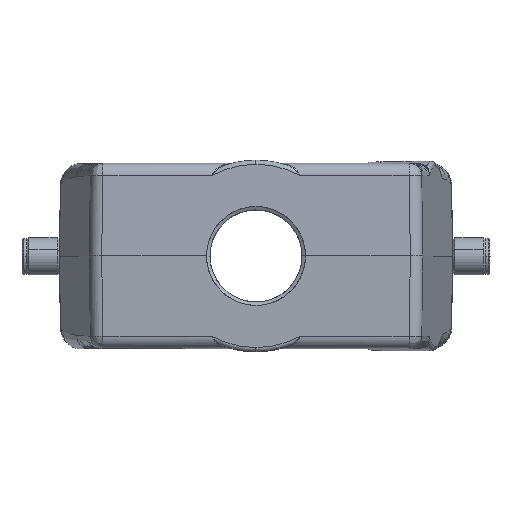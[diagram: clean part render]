
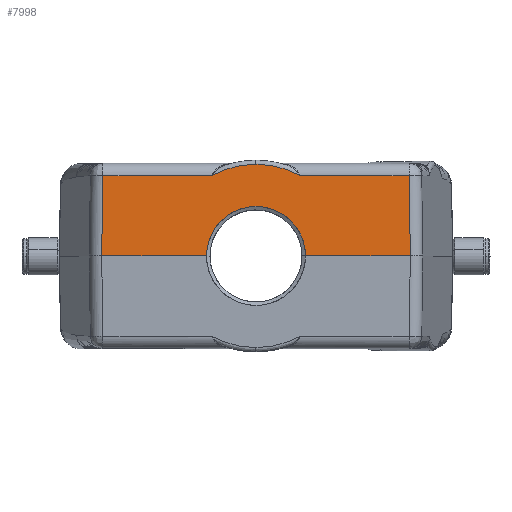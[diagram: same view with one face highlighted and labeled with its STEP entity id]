
A CAD part, top view. The second image highlights one B-rep face of the part: STEP entity #7998.
In plain terms, the highlighted planar face has unit normal (0, 0.018, 1) as drawn and (0, 1, -0.017) by its records, which use the part's own axes.
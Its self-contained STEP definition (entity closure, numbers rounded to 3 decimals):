
#250 = EDGE_CURVE ( 'NONE', #14827, #11829, #12576, .T. ) ;
#575 = DIRECTION ( 'NONE',  ( 0.015, -0.017, -1. ) ) ;
#653 =( BOUNDED_CURVE ( )  B_SPLINE_CURVE ( 3, ( #9312, #30827, #2178, #18879 ),
 .UNSPECIFIED., .F., .T. ) 
 B_SPLINE_CURVE_WITH_KNOTS ( ( 4, 4 ),
 ( 3.142, 4.712 ),
 .UNSPECIFIED. ) 
 CURVE ( )  GEOMETRIC_REPRESENTATION_ITEM ( )  RATIONAL_B_SPLINE_CURVE ( ( 1., 0.805, 0.805, 1. ) ) 
 REPRESENTATION_ITEM ( '' )  );
#1566 = CARTESIAN_POINT ( 'NONE',  ( -36.372, 75.667, -19.052 ) ) ;
#1575 = VERTEX_POINT ( 'NONE', #25935 ) ;
#2178 = CARTESIAN_POINT ( 'NONE',  ( 11.75, 75.88, -6.883 ) ) ;
#2221 = EDGE_CURVE ( 'NONE', #11515, #1575, #13035, .T. ) ;
#2468 = ORIENTED_EDGE ( 'NONE', *, *, #2221, .T. ) ;
#3103 = CARTESIAN_POINT ( 'NONE',  ( -36.366, 75.66, -19.458 ) ) ;
#3392 = DIRECTION ( 'NONE',  ( 0., 1., -0.017 ) ) ;
#3594 = ORIENTED_EDGE ( 'NONE', *, *, #29047, .T. ) ;
#3804 = EDGE_CURVE ( 'NONE', #12710, #13714, #27092, .T. ) ;
#4073 = CARTESIAN_POINT ( 'NONE',  ( 37.855, 77.384, 79.306 ) ) ;
#4346 = LINE ( 'NONE', #11986, #29758 ) ;
#4505 = EDGE_CURVE ( 'NONE', #11829, #23345, #17251, .T. ) ;
#4891 = EDGE_CURVE ( 'NONE', #13714, #22791, #19479, .T. ) ;
#5012 = B_SPLINE_CURVE_WITH_KNOTS ( 'NONE', 3,
 ( #10451, #5622, #5724, #27149, #29534, #8153 ),
 .UNSPECIFIED., .F., .F.,
 ( 4, 2, 4 ),
 ( 0., 0.5, 1. ),
 .UNSPECIFIED. ) ;
#5197 = DIRECTION ( 'NONE',  ( -1., 0., 0. ) ) ;
#5579 = CARTESIAN_POINT ( 'NONE',  ( -10.523, 75.667, -19.052 ) ) ;
#5622 = CARTESIAN_POINT ( 'NONE',  ( 8.911, 75.652, -19.943 ) ) ;
#5724 = CARTESIAN_POINT ( 'NONE',  ( 7.212, 75.64, -20.619 ) ) ;
#5766 = AXIS2_PLACEMENT_3D ( 'NONE', #13026, #3392, #22813 ) ;
#6210 = ORIENTED_EDGE ( 'NONE', *, *, #14324, .F. ) ;
#6519 = CARTESIAN_POINT ( 'NONE',  ( 52.5, 75.667, -19.052 ) ) ;
#7895 = CARTESIAN_POINT ( 'NONE',  ( 36.372, 75.667, -19.053 ) ) ;
#7987 = CARTESIAN_POINT ( 'NONE',  ( -11.75, 75.88, -6.883 ) ) ;
#7998 = ADVANCED_FACE ( 'NONE', ( #19039 ), #27641, .T. ) ;
#8153 = CARTESIAN_POINT ( 'NONE',  ( -0.007, 75.62, -21.767 ) ) ;
#8484 = CARTESIAN_POINT ( 'NONE',  ( -0.007, 75.62, -21.767 ) ) ;
#8557 = LINE ( 'NONE', #3103, #19312 ) ;
#8559 = EDGE_CURVE ( 'NONE', #1575, #23345, #653, .T. ) ;
#9312 = CARTESIAN_POINT ( 'NONE',  ( 0., 75.795, -11.75 ) ) ;
#9342 = ORIENTED_EDGE ( 'NONE', *, *, #4505, .F. ) ;
#9371 = CARTESIAN_POINT ( 'NONE',  ( 11.75, 76., 0. ) ) ;
#9817 = VECTOR ( 'NONE', #26220, 1000. ) ;
#10451 = CARTESIAN_POINT ( 'NONE',  ( 10.523, 75.667, -19.052 ) ) ;
#10990 = CARTESIAN_POINT ( 'NONE',  ( -10.523, 75.667, -19.052 ) ) ;
#11212 = DIRECTION ( 'NONE',  ( 0.015, 0.017, 1. ) ) ;
#11515 = VERTEX_POINT ( 'NONE', #29979 ) ;
#11687 = DIRECTION ( 'NONE',  ( -1., 0., 0. ) ) ;
#11829 = VERTEX_POINT ( 'NONE', #19371 ) ;
#11986 = CARTESIAN_POINT ( 'NONE',  ( 52.5, 75.667, -19.052 ) ) ;
#12009 = ORIENTED_EDGE ( 'NONE', *, *, #25221, .F. ) ;
#12234 = CARTESIAN_POINT ( 'NONE',  ( -36.659, 76., 0. ) ) ;
#12576 = LINE ( 'NONE', #4073, #25632 ) ;
#12710 = VERTEX_POINT ( 'NONE', #21453 ) ;
#12988 = ORIENTED_EDGE ( 'NONE', *, *, #8559, .T. ) ;
#13026 = CARTESIAN_POINT ( 'NONE',  ( 52.5, 76., 0. ) ) ;
#13035 =( BOUNDED_CURVE ( )  B_SPLINE_CURVE ( 3, ( #29375, #7987, #17469, #19866 ),
 .UNSPECIFIED., .F., .F. ) 
 B_SPLINE_CURVE_WITH_KNOTS ( ( 4, 4 ),
 ( 1.571, 3.142 ),
 .UNSPECIFIED. ) 
 CURVE ( )  GEOMETRIC_REPRESENTATION_ITEM ( )  RATIONAL_B_SPLINE_CURVE ( ( 1., 0.805, 0.805, 1. ) ) 
 REPRESENTATION_ITEM ( '' )  );
#13714 = VERTEX_POINT ( 'NONE', #5579 ) ;
#14324 = EDGE_CURVE ( 'NONE', #20064, #22791, #8557, .T. ) ;
#14509 = EDGE_CURVE ( 'NONE', #20437, #12710, #5012, .T. ) ;
#14827 = VERTEX_POINT ( 'NONE', #7895 ) ;
#16227 = ORIENTED_EDGE ( 'NONE', *, *, #14509, .T. ) ;
#16772 = LINE ( 'NONE', #25677, #19763 ) ;
#17251 = LINE ( 'NONE', #28624, #9817 ) ;
#17469 = CARTESIAN_POINT ( 'NONE',  ( -6.883, 75.795, -11.75 ) ) ;
#18049 = CARTESIAN_POINT ( 'NONE',  ( -8.913, 75.652, -19.942 ) ) ;
#18054 = CARTESIAN_POINT ( 'NONE',  ( 10.523, 75.667, -19.052 ) ) ;
#18879 = CARTESIAN_POINT ( 'NONE',  ( 11.75, 76., 0. ) ) ;
#19039 = FACE_OUTER_BOUND ( 'NONE', #25973, .T. ) ;
#19312 = VECTOR ( 'NONE', #575, 1000. ) ;
#19371 = CARTESIAN_POINT ( 'NONE',  ( 36.659, 76., 0. ) ) ;
#19479 = LINE ( 'NONE', #6519, #25117 ) ;
#19763 = VECTOR ( 'NONE', #11687, 1000. ) ;
#19866 = CARTESIAN_POINT ( 'NONE',  ( 0., 75.795, -11.75 ) ) ;
#20064 = VERTEX_POINT ( 'NONE', #12234 ) ;
#20437 = VERTEX_POINT ( 'NONE', #18054 ) ;
#21453 = CARTESIAN_POINT ( 'NONE',  ( -0.007, 75.62, -21.767 ) ) ;
#22684 = ORIENTED_EDGE ( 'NONE', *, *, #4891, .T. ) ;
#22791 = VERTEX_POINT ( 'NONE', #1566 ) ;
#22813 = DIRECTION ( 'NONE',  ( 0., 0.017, 1. ) ) ;
#22897 = ORIENTED_EDGE ( 'NONE', *, *, #3804, .T. ) ;
#23209 = DIRECTION ( 'NONE',  ( -1., 0., 0. ) ) ;
#23345 = VERTEX_POINT ( 'NONE', #9371 ) ;
#25117 = VECTOR ( 'NONE', #23209, 1000. ) ;
#25161 = CARTESIAN_POINT ( 'NONE',  ( -1.848, 75.62, -21.766 ) ) ;
#25221 = EDGE_CURVE ( 'NONE', #11515, #20064, #16772, .T. ) ;
#25632 = VECTOR ( 'NONE', #11212, 1000. ) ;
#25677 = CARTESIAN_POINT ( 'NONE',  ( 52.5, 76., 0. ) ) ;
#25734 = ORIENTED_EDGE ( 'NONE', *, *, #250, .F. ) ;
#25935 = CARTESIAN_POINT ( 'NONE',  ( 0., 75.795, -11.75 ) ) ;
#25973 = EDGE_LOOP ( 'NONE', ( #12009, #2468, #12988, #9342, #25734, #3594, #16227, #22897, #22684, #6210 ) ) ;
#26220 = DIRECTION ( 'NONE',  ( -1., 0., 0. ) ) ;
#27092 = B_SPLINE_CURVE_WITH_KNOTS ( 'NONE', 3,
 ( #8484, #25161, #27592, #29970, #18049, #10990 ),
 .UNSPECIFIED., .F., .F.,
 ( 4, 2, 4 ),
 ( 0., 0.5, 1. ),
 .UNSPECIFIED. ) ;
#27149 = CARTESIAN_POINT ( 'NONE',  ( 3.65, 75.624, -21.538 ) ) ;
#27592 = CARTESIAN_POINT ( 'NONE',  ( -3.658, 75.624, -21.536 ) ) ;
#27641 = PLANE ( 'NONE',  #5766 ) ;
#28624 = CARTESIAN_POINT ( 'NONE',  ( 52.5, 76., 0. ) ) ;
#29047 = EDGE_CURVE ( 'NONE', #14827, #20437, #4346, .T. ) ;
#29375 = CARTESIAN_POINT ( 'NONE',  ( -11.75, 76., 0. ) ) ;
#29534 = CARTESIAN_POINT ( 'NONE',  ( 1.837, 75.62, -21.767 ) ) ;
#29758 = VECTOR ( 'NONE', #5197, 1000. ) ;
#29970 = CARTESIAN_POINT ( 'NONE',  ( -7.218, 75.64, -20.617 ) ) ;
#29979 = CARTESIAN_POINT ( 'NONE',  ( -11.75, 76., 0. ) ) ;
#30827 = CARTESIAN_POINT ( 'NONE',  ( 6.883, 75.795, -11.75 ) ) ;
